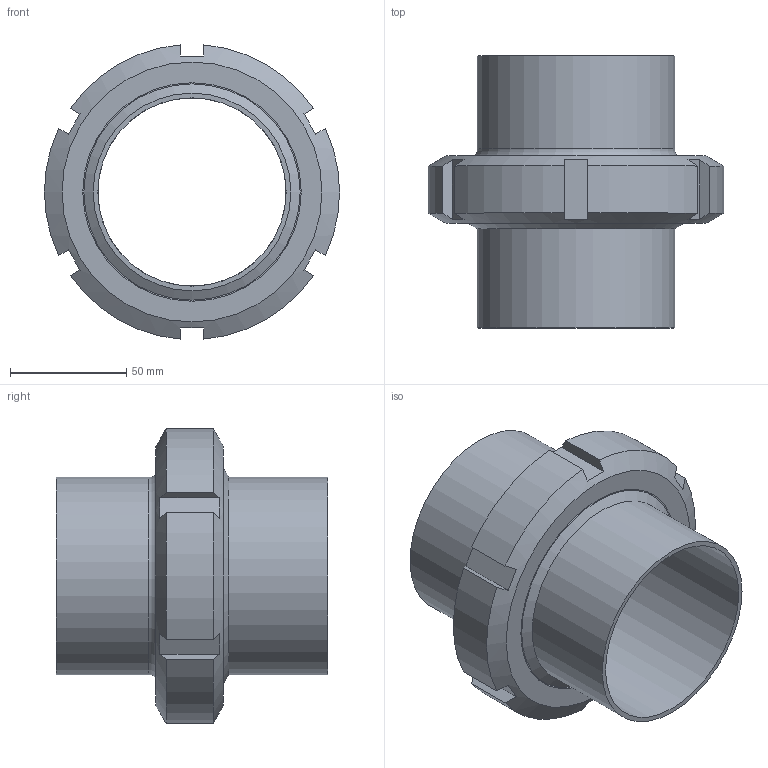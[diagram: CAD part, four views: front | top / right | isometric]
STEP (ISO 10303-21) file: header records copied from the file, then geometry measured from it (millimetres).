
FILE_DESCRIPTION(/* description */ ('Aseptik_Rohrverbindung_DIN 11864-1-A_85x2_L117'),/* implementation_level */ '2;1');
FILE_NAME(/* name */ 'L:\Normteile\N0024 - Rohrverbindungen\N0024_002 - DIN11864\N0024_002_001 - geschraubt\N0024_002_001\Step Marketing\DIN11864-1-A_85x2_L117.stp',/* time_stamp */ '2021-08-31T10:21:18+02:00',/* author */ ('Csasse'),/* organization */ ('Dockweiler AG'),/* preprocessor_version */ 'ST-DEVELOPER v18',/* originating_system */ 'Autodesk Inventor 2020',/* authorisation */ '');
FILE_SCHEMA (('AUTOMOTIVE_DESIGN { 1 0 10303 214 3 1 1 }'));
Length unit declared in the file: millimetre
Products named in the file (5): N0024_002_001_37; N0003_007_001_09; N0003_007_002_09; N0005_005_002_001_08; N0009_009_19
Assembly tree (4 placements, depth 2):
  N0024_002_001_37
    N0003_007_001_09
    N0003_007_002_09
    N0005_005_002_001_08
    N0009_009_19
Bounding box: 127 x 117 x 126.61 mm (x, y, z)
Volume: 259138.7 mm3; surface area: 114609 mm2
Topology: 4 solids, 4 shells, 68 faces, 200 edges, 144 vertices
Faces by surface type: plane 30, cylinder 16, torus 12, cone 10
Full cylindrical faces by diameter (mm): 81 x2, 85 x2, 93 x1, 94 x1, 98.9 x1, 99 x1, 103.65 x1, 110.635 x1
Entity records: 2600 total; most frequent: CARTESIAN_POINT 497, DIRECTION 434, ORIENTED_EDGE 400, EDGE_CURVE 200, AXIS2_PLACEMENT_3D 195, VERTEX_POINT 144, CIRCLE 118, EDGE_LOOP 80
